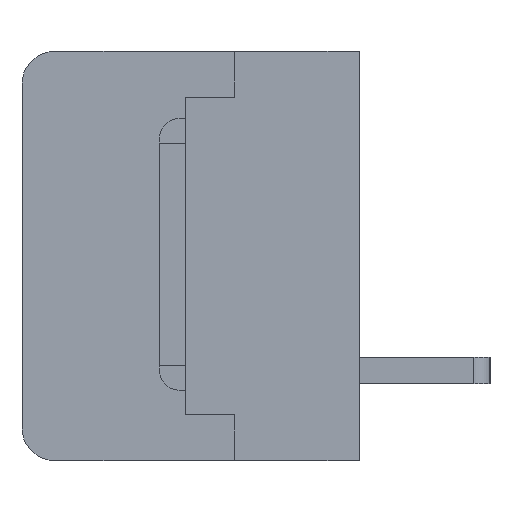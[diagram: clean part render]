
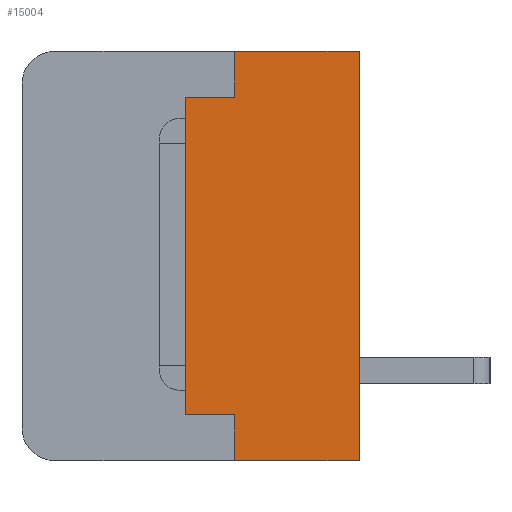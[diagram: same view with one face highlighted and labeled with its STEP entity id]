
A CAD part, left-side view. The second image highlights one B-rep face of the part: STEP entity #15004.
In plain terms, the highlighted planar face has unit normal (-1, 0, 0).
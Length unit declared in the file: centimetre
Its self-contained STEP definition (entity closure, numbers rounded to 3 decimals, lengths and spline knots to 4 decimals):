
#980=PLANE('',#24589);
#1700=VECTOR('',#16247,1.);
#1779=VECTOR('',#16370,1.);
#1793=VECTOR('',#16387,1.);
#1806=VECTOR('',#16401,1.);
#2337=VECTOR('',#17616,1.);
#2338=VECTOR('',#17617,1.);
#2339=VECTOR('',#17618,1.);
#2340=VECTOR('',#17619,1.);
#3316=LINE('',#20281,#1700);
#3395=LINE('',#20458,#1779);
#3409=LINE('',#20488,#1793);
#3422=LINE('',#20513,#1806);
#3953=LINE('',#22338,#2337);
#3954=LINE('',#22340,#2338);
#3955=LINE('',#22341,#2339);
#3956=LINE('',#22343,#2340);
#4868=VERTEX_POINT('',#20280);
#4869=VERTEX_POINT('',#20282);
#4918=VERTEX_POINT('',#20422);
#4935=VERTEX_POINT('',#20457);
#4949=VERTEX_POINT('',#20487);
#4961=VERTEX_POINT('',#20514);
#5468=VERTEX_POINT('',#22339);
#5469=VERTEX_POINT('',#22342);
#6803=EDGE_CURVE('',#4868,#4869,#3316,.T.);
#6891=EDGE_CURVE('',#4935,#4918,#3395,.T.);
#6906=EDGE_CURVE('',#4918,#4949,#3409,.T.);
#6919=EDGE_CURVE('',#4949,#4961,#3422,.T.);
#7710=EDGE_CURVE('',#5468,#4935,#3953,.T.);
#7711=EDGE_CURVE('',#4869,#5468,#3954,.T.);
#7712=EDGE_CURVE('',#5469,#4868,#3955,.T.);
#7713=EDGE_CURVE('',#4961,#5469,#3956,.T.);
#11575=ORIENTED_EDGE('',*,*,#7710,.F.);
#11576=ORIENTED_EDGE('',*,*,#7711,.F.);
#11577=ORIENTED_EDGE('',*,*,#6803,.F.);
#11578=ORIENTED_EDGE('',*,*,#7712,.F.);
#11579=ORIENTED_EDGE('',*,*,#7713,.F.);
#11580=ORIENTED_EDGE('',*,*,#6919,.F.);
#11581=ORIENTED_EDGE('',*,*,#6906,.F.);
#11582=ORIENTED_EDGE('',*,*,#6891,.F.);
#13269=EDGE_LOOP('',(#11575,#11576,#11577,#11578,#11579,#11580,#11581,#11582));
#14167=FACE_BOUND('',#13269,.T.);
#15004=ADVANCED_FACE('',(#14167),#980,.F.);
#16247=DIRECTION('',(0.,0.,1.));
#16370=DIRECTION('',(0.,-1.,0.));
#16387=DIRECTION('',(0.,0.,-1.));
#16401=DIRECTION('',(0.,1.,0.));
#17615=DIRECTION('',(1.,0.,0.));
#17616=DIRECTION('',(0.,0.,1.));
#17617=DIRECTION('',(0.,-1.,0.));
#17618=DIRECTION('',(0.,1.,0.));
#17619=DIRECTION('',(0.,0.,1.));
#20280=CARTESIAN_POINT('',(-1.382,0.53,-0.485));
#20281=CARTESIAN_POINT('',(-1.382,0.53,-0.485));
#20282=CARTESIAN_POINT('',(-1.382,0.53,0.485));
#20422=CARTESIAN_POINT('',(-1.382,0.,0.625));
#20457=CARTESIAN_POINT('',(-1.382,0.38,0.625));
#20458=CARTESIAN_POINT('',(-1.382,0.38,0.625));
#20487=CARTESIAN_POINT('',(-1.382,0.,-0.625));
#20488=CARTESIAN_POINT('',(-1.382,0.,0.625));
#20513=CARTESIAN_POINT('',(-1.382,0.,-0.625));
#20514=CARTESIAN_POINT('',(-1.382,0.38,-0.625));
#22337=CARTESIAN_POINT('',(-1.382,0.2532,0.));
#22338=CARTESIAN_POINT('',(-1.382,0.38,0.485));
#22339=CARTESIAN_POINT('',(-1.382,0.38,0.485));
#22340=CARTESIAN_POINT('',(-1.382,0.53,0.485));
#22341=CARTESIAN_POINT('',(-1.382,0.38,-0.485));
#22342=CARTESIAN_POINT('',(-1.382,0.38,-0.485));
#22343=CARTESIAN_POINT('',(-1.382,0.38,-0.625));
#24589=AXIS2_PLACEMENT_3D('',#22337,#17615,$);
